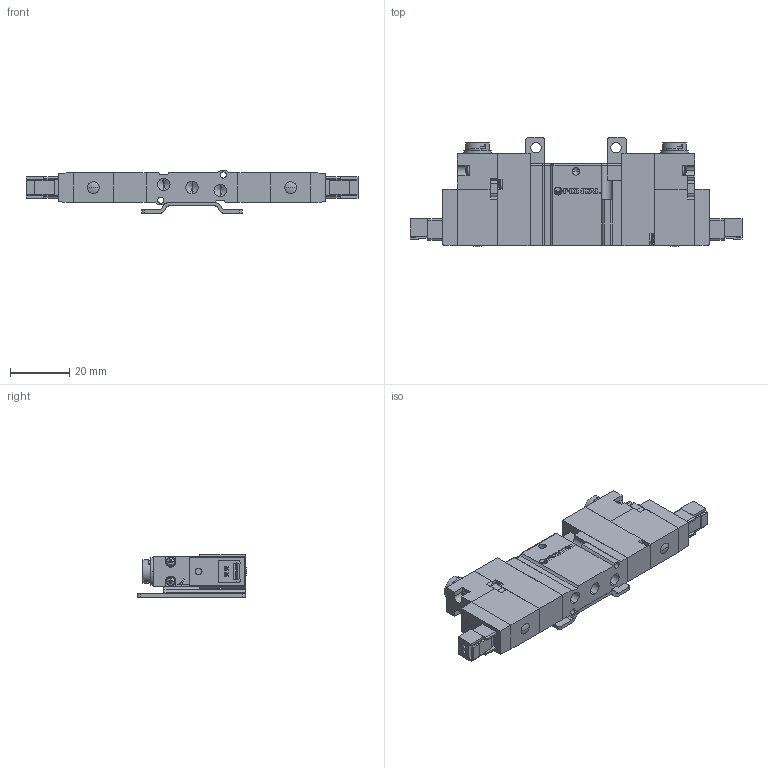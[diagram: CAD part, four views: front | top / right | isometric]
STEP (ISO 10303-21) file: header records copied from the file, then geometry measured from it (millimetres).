
FILE_DESCRIPTION (( 'STEP AP203' ), '1' );
FILE_NAME ('A05RD25#-BS-#-#-E.STEP', '2016-02-04T02:08:00', ( 'Sam Lin' ), ( '' ), 'SwSTEP 2.0', 'SolidWorks 2013', '' );
FILE_SCHEMA (( 'CONFIG_CONTROL_DESIGN' ));
Length unit declared in the file: metre
Products named in the file (14): A05RS25-8; A05RS25-12; A05RS25-#-#-#; A05RS25-9; A05RD25#-BS-#-#-E; A05RS25-2; ISO 7045 - M1.6 x 10; A05RS25-3; A05RS25-4; A05RS25-5; A05RS25-6; A05RS25-10; A05RS25-7; mark-ADEX-A05RS
Assembly tree (31 placements, depth 2):
  A05RD25#-BS-#-#-E
    A05RS25-#-#-#
    A05RS25-2  x2
    ISO 7045 - M1.6 x 10  x8
    A05RS25-3  x2
    A05RS25-4  x2
    A05RS25-5  x2
    A05RS25-6  x4
    A05RS25-7  x2
    A05RS25-8  x2
    A05RS25-9  x2
    A05RS25-10  x2
    mark-ADEX-A05RS
    A05RS25-12
Bounding box: 112 x 36.9 x 14.4 mm (x, y, z)
Volume: 25014.4 mm3; surface area: 18765.3 mm2
Topology: 39 solids, 39 shells, 1035 faces, 2626 edges, 1669 vertices
Faces by surface type: plane 657, cylinder 212, cone 92, bspline 74
Entity records: 17420 total; most frequent: CARTESIAN_POINT 3509, ORIENTED_EDGE 2482, DIRECTION 2453, EDGE_CURVE 1241, VECTOR 857, LINE 857, VERTEX_POINT 810, AXIS2_PLACEMENT_3D 798
